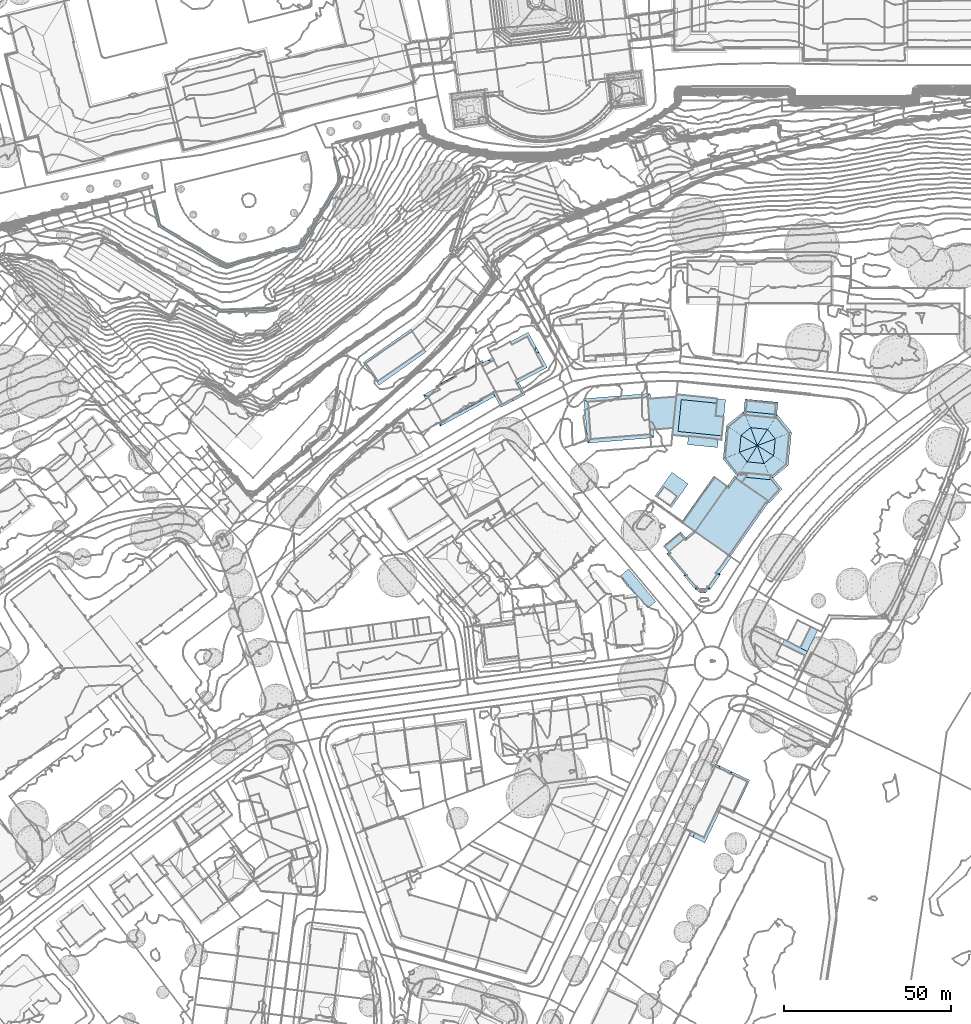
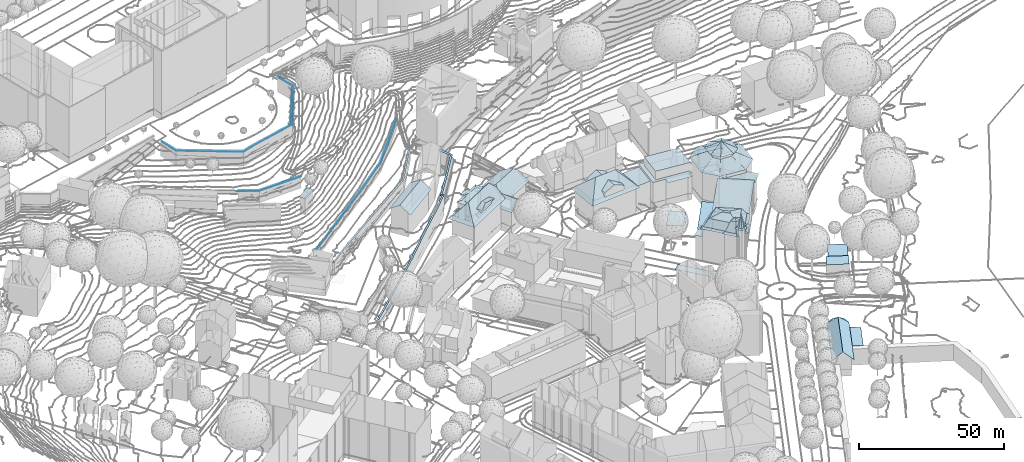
# Not in any storey, part 75 of 494: 27 roofs.
"""IFC2X3 model written with IfcOpenShell, lengths in metres."""

from ifc_helpers import new_model, si_unit, frame, origin_with_axes, place, context, subcontext, project, faceted_brep, element, save


model = new_model("IFC2X3")

# Units and contexts
model_context = context("Model", 3, precision=1e-05, world=origin_with_axes())
body_context = subcontext(model_context, "Body", "Model", "MODEL_VIEW")
ifc_project = project(units=[si_unit("AREAUNIT", "SQUARE_METRE"), si_unit("LENGTHUNIT", "METRE")], contexts=[model_context])

# Roofs
roof_1_placement = place(None, frame((211.8297320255, 101.9383160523, 526.7541), z_axis=(0.0, 0.0, 1.0), x_axis=(1.0, 0.0, 0.0)))
element("IfcRoof", 1, at=roof_1_placement, Name="Roof 68", ShapeType="NOTDEFINED", context=body_context, shape_type="Brep", body=[
    faceted_brep([(226.0840000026, 192.5819999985, 5.6565), (243.0140000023, 193.7958999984, 5.4645), (226.2320000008, 193.1942999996, 5.6565), (219.9750000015, 196.6953000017, 5.6565), (219.6790000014, 196.1660000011, 5.6565), (243.0360000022, 193.1904000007, 5.4645)], [[[0, 1, 2]], [[3, 4, 2]], [[0, 2, 4]], [[1, 0, 5]]]),
])
roof_2_placement = place(None, frame((211.8297320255, 101.9383160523, 526.7541), z_axis=(0.0, 0.0, 1.0), x_axis=(1.0, 0.0, 0.0)))
element("IfcRoof", 2, at=roof_2_placement, Name="Roof 70", ShapeType="NOTDEFINED", context=body_context, shape_type="Brep", body=[
    faceted_brep([(238.7470000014, 162.8436999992, -10.893), (246.1209999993, 169.2197000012, -10.9639), (238.8200000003, 163.7226000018, -10.893), (237.9189999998, 164.6748000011, -10.8929), (237.8509999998, 164.6094000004, -10.8929), (238.6140000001, 163.6044999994, -10.893), (238.2699999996, 163.3467000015, -10.893), (246.507000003, 168.6854999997, -10.9639), (261.8630000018, 179.3418000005, -11.2489), (261.4940000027, 179.8867000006, -11.2489), (276.4550000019, 188.9882999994, -11.3909), (276.0890000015, 189.5351000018, -11.3909), (284.3350000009, 195.1387000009, -11.3909), (284.7970000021, 194.6561999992, -11.3909), (295.9990000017, 209.7382999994, -10.9639), (295.4700000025, 210.1308000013, -10.9639)], [[[0, 1, 2]], [[3, 4, 2]], [[5, 0, 2]], [[0, 5, 6]], [[5, 2, 4]], [[1, 0, 7]], [[8, 9, 1]], [[1, 7, 8]], [[10, 11, 8]], [[9, 8, 11]], [[11, 10, 12]], [[13, 12, 10]], [[13, 14, 12]], [[12, 14, 15]]]),
])
roof_3_placement = place(None, frame((211.8297320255, 101.9383160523, 526.7541), z_axis=(0.0, 0.0, 1.0), x_axis=(1.0, 0.0, 0.0)))
element("IfcRoof", 3, at=roof_3_placement, Name="Roof 71", ShapeType="NOTDEFINED", context=body_context, shape_type="Brep", body=[
    faceted_brep([(299.9330000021, 191.4316000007, -13.8457), (292.7030000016, 183.5439000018, -14.0297), (293.6009999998, 183.6112999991, -14.0297), (299.4210000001, 191.8407999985, -13.8457), (287.8159999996, 177.9228000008, -14.2137), (294.1209999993, 183.1347999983, -14.0297), (293.1660000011, 183.120099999, -14.0297), (277.0140000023, 168.0282999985, -14.7666), (277.4560000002, 167.5439000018, -14.7666), (288.2660000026, 177.4453000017, -14.2137), (266.8460000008, 157.8671999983, -16.1475), (266.4130000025, 158.3603000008, -16.1475), (254.8990000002, 147.7490000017, -17.8053), (240.4620000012, 136.3828000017, -19.0232), (240.8580000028, 135.8594000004, -19.0262), (254.4750000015, 148.25, -17.8053), (304.5190000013, 205.878899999, -12.7038), (307.4979999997, 202.1981999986, -13.5707), (308.4230000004, 202.2080000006, -13.5687), (305.4220000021, 206.5194999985, -12.6478)], [[[0, 1, 2]], [[1, 0, 3]], [[4, 5, 6]], [[1, 6, 2]], [[5, 2, 6]], [[7, 8, 4]], [[9, 4, 8]], [[7, 10, 8]], [[5, 4, 9]], [[10, 7, 11]], [[11, 12, 10]], [[13, 14, 12]], [[12, 15, 13]], [[12, 11, 15]], [[16, 17, 18]], [[16, 18, 19]], [[18, 3, 0]], [[3, 18, 17]]]),
])
roof_4_placement = place(None, frame((211.8297320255, 101.9383160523, 526.7541), z_axis=(0.0, 0.0, 1.0), x_axis=(1.0, 0.0, 0.0)))
element("IfcRoof", 4, at=roof_4_placement, Name="Roof 76", ShapeType="NOTDEFINED", context=body_context, shape_type="Brep", body=[
    faceted_brep([(235.7670000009, 169.8007999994, -8.7491), (264.8280000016, 191.9404000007, -8.3042), (235.6860000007, 170.3574000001, -8.7491), (234.8790000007, 170.6504000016, -8.7491), (234.7090000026, 170.1854999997, -8.7491), (265.126000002, 191.5458999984, -8.3042), (280.6090000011, 204.1053999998, -8.3042), (280.9480000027, 203.7412, -8.3042), (298.3029999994, 223.1532999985, -8.0072), (297.9340000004, 223.4833999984, -8.0072)], [[[0, 1, 2]], [[3, 4, 2]], [[0, 2, 4]], [[0, 5, 1]], [[6, 7, 8]], [[8, 9, 6]], [[1, 5, 6]], [[7, 6, 5]]]),
])
roof_5_placement = place(None, frame((211.8297320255, 101.9383160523, 526.7541), z_axis=(0.0, 0.0, 1.0), x_axis=(1.0, 0.0, 0.0)))
element("IfcRoof", 5, at=roof_5_placement, Name="Roof 77", ShapeType="NOTDEFINED", context=body_context, shape_type="Brep", body=[
    faceted_brep([(207.700000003, 218.0762000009, 13.5628), (208.1950000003, 218.4345999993, 13.5628), (205.9340000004, 225.5936999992, 13.5628), (227.620000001, 206.4824000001, 13.5628), (227.5439999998, 205.8671999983, 13.5628), (231.375, 207.0731999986, 13.5628), (231.2230000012, 207.6162, 13.5628), (206.4830000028, 225.7226000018, 13.5628), (238.7939999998, 209.4706999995, 13.5628), (238.9260000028, 208.9228000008, 13.5628), (246.5879999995, 210.7558000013, 13.5628), (246.4610000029, 211.3057000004, 13.5628), (249.9810000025, 212.0956999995, 13.5628), (255.6390000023, 220.4023000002, 13.5628), (255.1559999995, 220.6933000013, 13.5628), (250.3399999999, 211.5986000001, 13.5628), (260.5860000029, 238.8203000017, 13.5628), (260.0400000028, 238.6777000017, 13.5628), (261.8560000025, 231.7558000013, 13.5628), (262.4620000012, 231.6669999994, 13.5628)], [[[0, 1, 2]], [[1, 0, 3]], [[3, 4, 5]], [[4, 3, 0]], [[6, 3, 5]], [[2, 1, 7]], [[5, 8, 6]], [[8, 5, 9]], [[8, 9, 10]], [[11, 10, 12]], [[10, 11, 8]], [[13, 14, 12]], [[15, 12, 10]], [[13, 12, 15]], [[16, 17, 18]], [[18, 13, 19]], [[18, 19, 16]], [[14, 13, 18]]]),
])
roof_6_placement = place(None, frame((554.542732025, 209.2947160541, 500.1665), z_axis=(0.0, 0.0, 1.0), x_axis=(1.0, 0.0, 0.0)))
element("IfcRoof", 6, at=roof_6_placement, Name="Roof 0", ShapeType="NOTDEFINED", context=body_context, shape_type="Brep", body=[
    faceted_brep([(5.3850000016, 8.4013999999, 5.3715), (2.9880000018, 6.4062999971, 5.3715), (13.4910000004, -1.3437000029, 5.3714), (11.0950000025, -3.3388000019, 5.3714)], [[[0, 1, 2]], [[3, 2, 1]]]),
])
roof_7_placement = place(None, frame((450.1807320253, 287.7430160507, 522.8345), z_axis=(0.0, 0.0, 1.0), x_axis=(1.0, 0.0, 0.0)))
element("IfcRoof", 7, at=roof_7_placement, Name="Roof 0", ShapeType="NOTDEFINED", context=body_context, shape_type="Brep", body=[
    faceted_brep([(-0.3389999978, 0.1015000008, 6.9983), (1.0420000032, -2.111399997, 6.9983), (6.3420000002, 1.3408000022, 6.9983), (4.8320000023, 3.6279000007, 6.9983)], [[[0, 1, 2]], [[2, 3, 0]]]),
])
roof_8_placement = place(None, frame((547.8737320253, 267.5604160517, 499.9486), z_axis=(0.0, 0.0, 1.0), x_axis=(1.0, 0.0, 0.0)))
element("IfcRoof", 8, at=roof_8_placement, Name="Roof 0", ShapeType="NOTDEFINED", context=body_context, shape_type="Brep", body=[
    faceted_brep([(18.4840000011, 2.6181000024, 11.4089), (12.7660000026, 1.0223999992, 12.4288), (17.5899999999, 1.4081999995, 12.4408), (4.6460000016, 0.3720000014, 12.4078), (12.8570000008, -0.0762000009, 13.4337), (12.875, -0.2958999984, 13.6337), (13.2240000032, -4.5040000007, 17.4843), (9.018000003, -3.0713, 15.8684), (-1.3029999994, 0.9794000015, 11.4089), (0.0219999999, -0.2939999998, 12.6648), (4.7390000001, -0.7490999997, 13.4337), (4.757000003, -0.9668000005, 13.6337), (5.1050000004, -5.1757999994, 17.4843), (0.8170000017, -10.9189999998, 12.5778), (-0.2049999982, -12.2872000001, 11.4089), (5.6410000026, -11.8027999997, 11.4089), (5.564000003, -10.7168000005, 12.4038), (7.7330000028, -11.629900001, 11.4089), (5.4130000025, -8.8867999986, 14.0816), (5.4310000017, -9.1044999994, 13.8816), (9.3100000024, -6.6015999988, 15.8684), (13.6840000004, -10.0665000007, 12.3838), (19.5830000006, -10.6484999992, 11.4089), (18.575000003, -9.6748999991, 12.3718), (13.5480000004, -8.4327000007, 13.8816), (13.5300000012, -8.2148999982, 14.0816), (13.6840000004, -10.0665000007, 14.0816), (9.6240000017, -10.3916999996, 15.8684), (5.564000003, -10.7168000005, 14.0816), (8.7060000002, 0.6972000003, 15.8685), (12.7660000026, 1.0223999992, 13.6337), (4.6460000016, 0.3720000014, 13.6337)], [[[0, 1, 2]], [[1, 0, 3]], [[2, 1, 4]], [[2, 5, 6]], [[5, 2, 4]], [[6, 5, 7]], [[3, 8, 9]], [[8, 3, 0]], [[3, 9, 10]], [[7, 11, 12]], [[9, 11, 10]], [[11, 9, 12]], [[7, 12, 6]], [[13, 14, 15]], [[16, 15, 17]], [[13, 15, 16]], [[12, 13, 18]], [[19, 18, 13]], [[13, 16, 19]], [[12, 18, 20]], [[17, 21, 16]], [[21, 17, 22]], [[22, 23, 21]], [[21, 23, 24]], [[20, 25, 6]], [[23, 25, 24]], [[25, 23, 6]], [[20, 6, 12]], [[26, 25, 20]], [[20, 27, 26]], [[27, 20, 18]], [[18, 28, 27]], [[29, 7, 30]], [[5, 30, 7]], [[31, 11, 7]], [[7, 29, 31]], [[23, 22, 0]], [[23, 2, 6]], [[2, 23, 0]], [[9, 8, 13]], [[9, 13, 12]], [[13, 8, 14]]]),
])
roof_9_placement = place(None, frame((481.4457320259, 279.2078160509, 509.1578), z_axis=(0.0, 0.0, 1.0), x_axis=(1.0, 0.0, 0.0)))
element("IfcRoof", 9, at=roof_9_placement, Name="Roof 0", ShapeType="NOTDEFINED", context=body_context, shape_type="Brep", body=[
    faceted_brep([(17.8780000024, 3.2656000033, 9.819), (15.6600000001, 6.7061000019, 12.6728), (1.4959999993, -3.2811999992, 12.6728), (3.8530000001, -6.6229999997, 9.819), (13.3969999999, 10.2158000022, 9.957), (-0.9079999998, 0.1289000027, 9.957)], [[[0, 1, 2]], [[2, 3, 0]], [[1, 4, 5]], [[5, 2, 1]]]),
])
roof_10_placement = place(None, frame((499.9197320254, 269.244916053, 502.2044), z_axis=(0.0, 0.0, 1.0), x_axis=(1.0, 0.0, 0.0)))
element("IfcRoof", 10, at=roof_10_placement, Name="Roof 0", ShapeType="NOTDEFINED", context=body_context, shape_type="Brep", body=[
    faceted_brep([(0.0260000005, -0.0469000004, 13.4137), (0.4750000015, -0.2010999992, 13.6747), (4.7050000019, 2.3583999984, 13.5117), (-1.4169999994, 0.4472999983, 12.5738), (3.3520000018, 2.5077999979, 12.9308), (2.5230000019, 2.5995999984, 12.5738), (4.8090000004, 2.1669999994, 13.6747), (2.2470000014, 3.1044999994, 12.5738), (3.2369999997, 2.9638999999, 12.9908), (4.4710000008, 2.7870999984, 13.5117), (4.0800000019, -7.3993999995, 13.4397), (21.0280000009, 2.2206999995, 13.6747), (4.182, -6.9853000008, 13.6747), (21.7360000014, 0.9257999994, 12.5738), (3.7060000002, -8.9266999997, 12.5738), (11.1680000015, -3.0146000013, 15.8995), (8.9150000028, -5.1006000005, 15.5725), (13.2960000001, -1.8515000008, 15.8995), (12.075000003, -2.1737999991, 16.0315), (16.3310000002, -1.0469000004, 15.5725), (15.2600000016, 0.9140999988, 15.5725), (11.3200000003, -0.7928999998, 16.0315), (7.8430000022, -3.1396000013, 15.5725), (4.1110000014, 3.4433999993, 12.9888), (8.4600000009, 5.8359999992, 12.9808), (8.1710000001, 6.3418000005, 12.5738), (10.8540000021, 7.808600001, 12.5738), (11.1229999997, 7.3193999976, 12.8728), (14.7790000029, 9.2998000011, 12.8818), (10.8500000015, 7.8066999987, 12.5738), (16.5460000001, 8.5821000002, 13.6747), (17.3210000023, 9.004900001, 13.6747), (16.3370000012, 10.8046999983, 12.5738), (15.4880000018, 8.0029999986, 13.6747), (12.2220000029, 8.5557000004, 12.5239), (11.1090000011, 7.3447000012, 15.6445), (14.6449999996, 9.2276000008, 15.6585), (11.3450000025, 7.7441999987, 15.5725), (13.9270000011, 7.7822000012, 15.9395), (10.1480000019, 5.7168000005, 15.9395), (14.8630000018, 9.6669999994, 15.5725), (10.9030000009, 8.5527999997, 15.5725), (7.9910000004, 5.9111999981, 15.5725), (3.7460000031, 3.5907999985, 15.5725), (4.2719999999, 3.5331999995, 15.6645), (8.4400000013, 5.871100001, 15.6485), (5.8370000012, 3.3603999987, 15.9395), (8.0720000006, 6.5175999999, 15.6465), (7.5490000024, 6.7197000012, 15.5725), (8.1040000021, 7.4540999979, 15.5725), (7.8949999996, 7.1777999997, 15.5725), (7.7820000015, 7.0273999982, 15.5725), (8.9040000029, 8.1327999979, 15.5725), (10.4600000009, 8.5223000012, 15.5724), (10.3330000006, 8.5137000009, 15.5725), (9.8920000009, 8.4844000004, 15.5725), (6.9700000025, 1.2881000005, 15.9395), (15.0600000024, 5.7089999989, 15.9395), (16.4330000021, 6.7929999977, 15.5725), (5.3170000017, 0.7177999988, 15.5725), (18.7440000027, 4.3603999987, 17.1594), (20.0670000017, 3.9804999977, 16.0245), (17.8159999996, 6.1415999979, 17.1194), (17.3480000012, 4.7608000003, 18.3552), (18.2259999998, 7.3486999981, 16.0385), (15.313000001, -0.7479999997, 13.8337), (9.2140000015, -4.0820000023, 13.8317), (5.3530000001, -1.7939000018, 18.3552), (7.9250000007, -3.2890000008, 15.3725), (8.5500000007, -2.8672000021, 15.4545), (15.3420000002, 0.7637000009, 15.3725), (14.6510000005, 0.4648999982, 15.4525), (5.2400000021, 0.8574000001, 15.3725), (5.4800000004, 0.9404999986, 15.4255), (16.3570000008, 6.932599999, 15.3725), (16.1579999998, 6.7753999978, 15.4255)], [[[0, 1, 2]], [[3, 0, 4]], [[2, 4, 0]], [[5, 3, 4]], [[1, 6, 2]], [[7, 5, 8]], [[8, 5, 4]], [[4, 2, 9]], [[4, 9, 8]], [[10, 11, 12]], [[13, 10, 14]], [[13, 11, 10]], [[0, 10, 1]], [[14, 0, 3]], [[10, 12, 1]], [[14, 10, 0]], [[15, 16, 17]], [[17, 18, 15]], [[19, 17, 16]], [[20, 17, 19]], [[20, 18, 17]], [[18, 20, 21]], [[18, 21, 15]], [[15, 22, 16]], [[22, 15, 21]], [[23, 24, 25]], [[23, 7, 8]], [[7, 23, 25]], [[23, 8, 9]], [[26, 27, 28]], [[26, 29, 27]], [[30, 31, 28]], [[28, 32, 26]], [[32, 28, 31]], [[30, 28, 33]], [[29, 26, 34]], [[35, 36, 37]], [[38, 35, 39]], [[36, 40, 37]], [[36, 35, 38]], [[35, 37, 41]], [[39, 35, 41]], [[42, 43, 44]], [[45, 44, 46]], [[44, 45, 42]], [[45, 46, 39]], [[45, 39, 47]], [[45, 48, 42]], [[48, 45, 47]], [[39, 49, 47]], [[47, 49, 50]], [[50, 51, 47]], [[51, 48, 47]], [[39, 52, 49]], [[53, 54, 41]], [[39, 41, 54]], [[54, 55, 39]], [[52, 39, 55]], [[46, 56, 39]], [[39, 57, 38]], [[57, 39, 56]], [[57, 58, 36]], [[57, 36, 38]], [[36, 58, 40]], [[44, 43, 59]], [[46, 59, 56]], [[59, 46, 44]], [[60, 61, 62]], [[60, 62, 63]], [[62, 61, 64]], [[11, 65, 66]], [[66, 12, 11]], [[21, 67, 22]], [[67, 12, 22]], [[22, 12, 68]], [[66, 69, 68]], [[68, 12, 66]], [[67, 21, 63]], [[70, 71, 11]], [[11, 71, 65]], [[60, 21, 20]], [[61, 60, 20]], [[61, 20, 70]], [[21, 60, 63]], [[11, 61, 70]], [[1, 12, 67]], [[67, 59, 1]], [[59, 67, 56]], [[62, 57, 56]], [[56, 67, 63]], [[1, 72, 6]], [[72, 1, 59]], [[73, 6, 72]], [[62, 64, 57]], [[64, 58, 57]], [[58, 64, 74]], [[33, 75, 74]], [[74, 31, 30]], [[31, 74, 64]], [[74, 30, 33]], [[62, 56, 63]]]),
])
roof_11_placement = place(None, frame((516.2887320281, 278.1668160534, 502.5014), z_axis=(0.0, 0.0, 1.0), x_axis=(1.0, 0.0, 0.0)))
element("IfcRoof", 11, at=roof_11_placement, Name="Roof 0", ShapeType="NOTDEFINED", context=body_context, shape_type="Brep", body=[
    faceted_brep([(17.0249999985, 4.0145999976, 12.9977), (15.9479999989, 6.0155999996, 12.9317), (15.7559999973, 4.5341999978, 13.6317), (4.4599999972, -0.0439000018, 12.9517), (5.4629999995, -2.1631000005, 12.9347), (5.9589999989, -0.6016000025, 13.6317), (19.3359999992, -0.2763999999, 10.051), (10.2819999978, -5.0225000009, 10.051), (6.4469999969, -4.2402000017, 11.5469), (9.3259999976, -5.5234000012, 10.051), (0.1669999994, 0.0907999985, 10.039), (0.0, 0.0, 9.931), (1.5249999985, -2.9238000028, 9.947), (1.4869999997, 1.9208999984, 11.1789), (3.9560000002, -0.7422000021, 11.7399), (4.1219999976, -0.6523000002, 11.8468), (2.7630000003, 1.5126999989, 11.7189), (4.493999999, -1.3691000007, 11.8498), (4.9689999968, -1.1201000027, 12.1548), (4.4599999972, -0.0439000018, 12.1748), (-0.3080000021, 1.0048999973, 10.035), (3.9499999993, 0.8710999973, 12.1528), (3.7729999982, 1.1884999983, 12.1448), (4.3559999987, -1.4414000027, 11.7618), (1.5229999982, -2.9248000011, 9.3941), (3.943, -7.5742000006, 9.3831), (3.3289999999, -1.9794999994, 10.9039), (3.2119999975, -7.9736000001, 8.7661), (5.4329999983, -12.2118999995, 8.7661), (4.1030000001, -0.6621000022, 11.8638), (9.1389999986, -10.2705000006, 11.8638), (4.9689999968, -1.1201000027, 11.4399), (4.6270000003, -1.2988000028, 11.7359), (6.311999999, -3.9550999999, 11.5369), (12.7239999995, -8.3896000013, 8.7661), (9.557, -5.4023000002, 9.851), (10.3880000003, -3.9326000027, 8.7661), (9.8539999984, -4.2168000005, 9.2291), (10.2819999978, -5.0225000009, 9.2251), (2.9499999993, 2.6669999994, 11.1789), (2.0419999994, 4.2949000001, 10.114), (2.1789999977, 4.365199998, 10.115), (13.6359999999, 10.2118999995, 10.195), (3.7859999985, 5.1845999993, 10.126), (11.8279999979, -4.2109000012, 10.001), (19.3359999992, -0.2763999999, 9.851)], [[[0, 1, 2]], [[3, 4, 5]], [[0, 2, 6]], [[7, 6, 2]], [[2, 5, 7]], [[5, 4, 8]], [[9, 7, 8]], [[8, 7, 5]], [[10, 11, 12]], [[12, 13, 10]], [[13, 12, 14]], [[14, 15, 16]], [[17, 18, 15]], [[15, 18, 19]], [[10, 13, 20]], [[21, 16, 15]], [[22, 16, 21]], [[16, 13, 14]], [[21, 15, 19]], [[14, 12, 23]], [[24, 25, 26]], [[25, 27, 28]], [[29, 14, 23]], [[30, 23, 26]], [[29, 23, 30]], [[26, 25, 30]], [[30, 25, 28]], [[15, 29, 17]], [[17, 29, 30]], [[31, 32, 33]], [[33, 32, 17]], [[17, 8, 33]], [[17, 30, 8]], [[34, 35, 9]], [[9, 8, 30]], [[34, 9, 30]], [[36, 37, 38]], [[38, 34, 36]], [[34, 38, 35]], [[22, 3, 1]], [[39, 16, 1]], [[39, 13, 16]], [[40, 39, 41]], [[16, 22, 1]], [[5, 2, 1]], [[42, 39, 1]], [[43, 41, 39]], [[39, 42, 43]], [[3, 5, 1]], [[7, 44, 45]]]),
])
roof_12_placement = place(None, frame((576.9417320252, 139.999816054, 499.5324), z_axis=(0.0, 0.0, 1.0), x_axis=(1.0, 0.0, 0.0)))
element("IfcRoof", 12, at=roof_12_placement, Name="Roof 0", ShapeType="NOTDEFINED", context=body_context, shape_type="Brep", body=[
    faceted_brep([(12.7589999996, 16.7655999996, 10.0681), (11.2259999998, 16.5067999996, 11.095), (13.5360000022, 16.3935999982, 9.1651), (15.4900000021, 16.2987999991, 7.5313), (14.0450000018, 16.9843999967, 9.2061), (2.762000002, -1.3232000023, 11.0949), (5.7690000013, -4.1807000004, 7.5313), (9.7280000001, 18.2187999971, 9.1312), (-1.2149999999, -0.8662, 7.5313), (8.507000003, 19.6142999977, 7.5313), (2.2070000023, -2.4912, 11.0949), (10.4890000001, 17.8534999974, 10.0571), (9.8850000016, 18.9589999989, 9.2061)], [[[0, 1, 2]], [[3, 4, 0]], [[3, 0, 2]], [[5, 2, 1]], [[6, 2, 5]], [[6, 3, 2]], [[7, 5, 1]], [[8, 7, 9]], [[5, 8, 10]], [[8, 5, 7]], [[6, 5, 10]], [[0, 4, 11]], [[0, 11, 1]], [[11, 4, 12]], [[12, 9, 11]], [[7, 1, 11]], [[7, 11, 9]]]),
])
roof_13_placement = place(None, frame((586.985732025, 146.8299160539, 499.5454), z_axis=(0.0, 0.0, 1.0), x_axis=(1.0, 0.0, 0.0)))
element("IfcRoof", 13, at=roof_13_placement, Name="Roof 0", ShapeType="NOTDEFINED", context=body_context, shape_type="Brep", body=[
    faceted_brep([(3.8350000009, 10.235299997, 5.6745), (3.512000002, 9.5546999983, 5.6745), (4.3710000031, 9.1425999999, 5.5845), (9.1340000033, 7.7206999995, 5.1235), (-0.049999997, -0.1074000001, 5.5875), (4.4140000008, -2.2256000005, 5.1235)], [[[0, 1, 2]], [[0, 2, 3]], [[3, 2, 4]], [[5, 3, 4]]]),
])
roof_14_placement = place(None, frame((604.1217320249, 191.883616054, 499.7615), z_axis=(0.0, 0.0, 1.0), x_axis=(1.0, 0.0, 0.0)))
element("IfcRoof", 14, at=roof_14_placement, Name="Roof 0", ShapeType="NOTDEFINED", context=body_context, shape_type="Brep", body=[
    faceted_brep([(0.0, 0.0, 5.7324), (6.9760000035, -3.4414000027, 5.7325), (8.5789999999, -0.1904000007, 5.7325), (1.5960000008, 3.253899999, 5.7314), (9.2370000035, 1.1444999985, 5.7325), (2.2520000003, 4.5907999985, 5.7315)], [[[0, 1, 2]], [[3, 2, 4]], [[2, 3, 0]], [[3, 4, 5]]]),
])
roof_15_placement = place(None, frame((607.3027320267, 196.0164160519, 499.6766), z_axis=(0.0, 0.0, 1.0), x_axis=(1.0, 0.0, 0.0)))
element("IfcRoof", 15, at=roof_15_placement, Name="Roof 0", ShapeType="NOTDEFINED", context=body_context, shape_type="Brep", body=[
    faceted_brep([(3.9450000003, -1.9463, 5.8174), (6.0560000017, -2.9882999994, 5.8174), (7.0560000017, 4.3603999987, 5.8164), (-0.1590000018, 0.0780999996, 5.8164), (0.0, 0.0, 5.8164), (2.9560000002, 6.3672000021, 5.8164), (3.1039999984, 6.2949000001, 5.8164), (9.1689999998, 3.3251999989, 5.8164)], [[[0, 1, 2]], [[3, 4, 5]], [[0, 6, 4]], [[6, 0, 2]], [[5, 4, 6]], [[2, 1, 7]]]),
])
roof_16_placement = place(None, frame((573.0317320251, 257.6658160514, 499.7226), z_axis=(0.0, 0.0, 1.0), x_axis=(1.0, 0.0, 0.0)))
element("IfcRoof", 16, at=roof_16_placement, Name="Roof 0", ShapeType="NOTDEFINED", context=body_context, shape_type="Brep", body=[
    faceted_brep([(15.3509999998, 5.4209000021, 11.3249), (13.3090000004, 9.5439999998, 11.3249), (12.9260000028, 5.6963, 11.3249), (15.8730000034, 10.6143000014, 11.3249), (4.7360000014, -0.4853000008, 11.3249), (13.4200000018, -3.6884999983, 11.3249), (13.7030000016, -1.4032999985, 11.3249), (14.6550000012, -1.5, 11.3249), (14.7850000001, -0.2137999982, 11.3249), (2.6390000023, 10.6172000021, 11.3249), (1.2609999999, 12.1338, 11.3249), (0.0, 0.0, 11.3249), (4.449000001, -2.816399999, 11.3249), (1.6830000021, 1.1026000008, 11.3249)], [[[0, 1, 2]], [[1, 0, 3]], [[4, 5, 6]], [[7, 8, 6]], [[8, 4, 6]], [[1, 3, 9]], [[9, 10, 11]], [[10, 9, 3]], [[12, 5, 4]], [[4, 13, 11]], [[11, 13, 9]], [[8, 13, 4]]]),
])
roof_17_placement = place(None, frame((573.0317320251, 257.6658160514, 499.7226), z_axis=(0.0, 0.0, 1.0), x_axis=(1.0, 0.0, 0.0)))
element("IfcRoof", 17, at=roof_17_placement, Name="Roof 1", ShapeType="NOTDEFINED", context=body_context, shape_type="Brep", body=[
    faceted_brep([(13.3090000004, 9.5439999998, 14.7665), (2.6390000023, 10.6172000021, 14.7666), (14.7850000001, -0.2137999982, 14.7665), (1.6830000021, 1.1026000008, 14.7665), (15.7410000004, 9.2998000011, 14.7665)], [[[0, 1, 2]], [[2, 1, 3]], [[2, 4, 0]]]),
])
roof_18_placement = place(None, frame((565.6917320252, 268.4637160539, 499.7686), z_axis=(0.0, 0.0, 1.0), x_axis=(1.0, 0.0, 0.0)))
element("IfcRoof", 18, at=roof_18_placement, Name="Roof 0", ShapeType="NOTDEFINED", context=body_context, shape_type="Brep", body=[
    faceted_brep([(0.6770000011, -9.25, 10.59), (7.557, -8.7110000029, 10.5899), (0.5850000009, -8.0938000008, 10.59), (0.6680000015, -9.251000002, 10.59), (0.3520000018, -4.871100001, 10.589), (8.5320000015, 0.672799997, 10.587), (0.0, 0.0, 10.587), (2.3910000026, -9.1161000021, 10.5399), (0.3350000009, -4.625, 10.412), (0.4570000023, -6.2490000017, 10.389), (0.501000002, -6.9317000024, 10.438), (0.2540000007, -3.4688000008, 10.388), (0.6770000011, -9.25, 10.39)], [[[0, 1, 2]], [[3, 0, 2]], [[4, 2, 1]], [[4, 1, 5]], [[6, 4, 5]], [[7, 0, 3]], [[8, 9, 10]], [[9, 8, 11]], [[9, 12, 10]]]),
])
roof_19_placement = place(None, frame((568.5307320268, 239.2557160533, 500.0015), z_axis=(0.0, 0.0, 1.0), x_axis=(1.0, 0.0, 0.0)))
element("IfcRoof", 19, at=roof_19_placement, Name="Roof 0", ShapeType="NOTDEFINED", context=body_context, shape_type="Brep", body=[
    faceted_brep([(9.1959999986, 3.8515000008, 5.9304), (4.3200000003, 7.311499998, 5.9305), (4.1499999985, -3.2608000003, 5.9304), (-0.7259999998, 0.1981999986, 5.9305)], [[[0, 1, 2]], [[3, 2, 1]]]),
])
roof_20_placement = place(None, frame((576.0807320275, 231.3953160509, 499.9275), z_axis=(0.0, 0.0, 1.0), x_axis=(1.0, 0.0, 0.0)))
element("IfcRoof", 20, at=roof_20_placement, Name="Roof 0", ShapeType="NOTDEFINED", context=body_context, shape_type="Brep", body=[
    faceted_brep([(3.7589999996, -2.7412, 6.2374), (3.8029999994, -2.6747999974, 6.2374), (3.7049999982, -2.6054999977, 6.2374), (-0.432, 0.2090000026, 6.2374), (13.1719999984, 10.7763999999, 6.2374), (13.7670000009, 10.3545000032, 6.2374), (14.0469999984, 10.7490000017, 6.2374), (9.3279999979, 14.0713, 6.2374)], [[[0, 1, 2]], [[3, 2, 4]], [[2, 3, 0]], [[5, 6, 4]], [[4, 7, 3]], [[7, 4, 6]]]),
])
roof_21_placement = place(None, frame((576.0807320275, 231.3953160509, 499.9275), z_axis=(0.0, 0.0, 1.0), x_axis=(1.0, 0.0, 0.0)))
element("IfcRoof", 21, at=roof_21_placement, Name="Roof 1", ShapeType="NOTDEFINED", context=body_context, shape_type="Brep", body=[
    faceted_brep([(3.7609999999, -2.7391999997, 13.8457), (13.8429999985, -9.7655999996, 13.8456), (15.5979999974, 14.2050999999, 13.8457), (3.2749999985, -3.2138999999, 13.8457), (3.6449999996, -2.9179999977, 13.8457), (3.2879999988, -3.2225999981, 13.8457), (26.1059999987, 6.7715000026, 13.8457), (13.7839999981, -10.6473999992, 13.8456), (13.6840000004, -9.990199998, 13.8456), (13.2850000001, -10.2949000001, 13.8456), (13.5610000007, -9.9032999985, 13.8457)], [[[0, 1, 2]], [[0, 2, 3]], [[4, 0, 5]], [[6, 1, 7]], [[6, 2, 1]], [[7, 1, 8]], [[5, 0, 3]], [[9, 8, 10]], [[7, 8, 9]]]),
])
roof_22_placement = place(None, frame((588.8407320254, 250.8973160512, 499.7896), z_axis=(0.0, 0.0, 1.0), x_axis=(1.0, 0.0, 0.0)))
element("IfcRoof", 22, at=roof_22_placement, Name="Roof 0", ShapeType="NOTDEFINED", context=body_context, shape_type="Brep", body=[
    faceted_brep([(3.1099999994, -6.1767999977, 13.3106), (4.7740000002, -5.182599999, 13.3106), (3.882000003, -5.0859999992, 13.3106), (6.0769999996, -5.8183999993, 13.3106), (6.4990000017, -5.1972999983, 13.3106), (4.8350000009, -4.9814999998, 13.3106), (12.8790000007, -12.995099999, 13.3106), (13.5470000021, -6.5615999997, 13.3106), (12.6689999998, -13.2333999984, 13.3106), (13.132000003, -13.5527999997, 13.3106), (16.9330000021, -9.3632999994, 13.3106), (13.3599999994, -5.9365999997, 13.3106), (13.7360000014, -6.4062999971, 13.3106), (13.8210000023, -5.5605999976, 13.3106)], [[[0, 1, 2]], [[1, 0, 3]], [[4, 5, 3]], [[6, 7, 3]], [[5, 1, 3]], [[8, 9, 6]], [[6, 9, 10]], [[11, 12, 13]], [[12, 10, 13]], [[10, 12, 7]], [[7, 6, 10]], [[3, 0, 6]]]),
])
roof_23_placement = place(None, frame((588.8407320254, 250.8973160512, 499.7896), z_axis=(0.0, 0.0, 1.0), x_axis=(1.0, 0.0, 0.0)))
element("IfcRoof", 23, at=roof_23_placement, Name="Roof 1", ShapeType="NOTDEFINED", context=body_context, shape_type="Brep", body=[
    faceted_brep([(5.4030000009, 12.8808000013, 11.5818), (6.2010000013, 13.826100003, 11.2529), (5.870000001, 17.5810000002, 10.058), (5.7809999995, 13.1894000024, 11.4708), (6.1400000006, 13.1533000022, 11.4708), (15.7300000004, 16.6025000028, 10.058), (15.120000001, 12.2578000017, 11.4718), (15.2780000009, 12.0604999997, 11.5308), (14.8599999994, 12.9668000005, 11.2529), (14.8020000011, 12.2890000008, 11.4718)], [[[0, 1, 2]], [[1, 0, 3]], [[1, 3, 4]], [[2, 1, 5]], [[6, 7, 8]], [[9, 6, 8]], [[8, 7, 5]], [[8, 5, 1]]]),
])
roof_24_placement = place(None, frame((588.8407320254, 250.8973160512, 499.7896), z_axis=(0.0, 0.0, 1.0), x_axis=(1.0, 0.0, 0.0)))
element("IfcRoof", 24, at=roof_24_placement, Name="Roof 2", ShapeType="NOTDEFINED", context=body_context, shape_type="Brep", body=[
    faceted_brep([(6.5160000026, -1.1992999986, 18.8951), (9.5400000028, 3.6650000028, 21.6509), (4.1750000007, 1.6581999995, 18.8951), (4.6750000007, 6.6904000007, 18.8951), (11.5480000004, -1.6992000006, 18.8951), (14.4050000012, 0.6416000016, 18.8951), (14.9050000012, 5.6738000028, 18.8951), (7.5329999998, 9.0302000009, 18.8951), (12.5650000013, 8.5302000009, 18.8951)], [[[0, 1, 2]], [[1, 3, 2]], [[4, 1, 0]], [[1, 4, 5]], [[6, 1, 5]], [[3, 1, 7]], [[1, 8, 7]], [[8, 1, 6]]]),
])
roof_25_placement = place(None, frame((588.8407320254, 250.8973160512, 499.7896), z_axis=(0.0, 0.0, 1.0), x_axis=(1.0, 0.0, 0.0)))
element("IfcRoof", 25, at=roof_25_placement, Name="Roof 3", ShapeType="NOTDEFINED", context=body_context, shape_type="Brep", body=[
    faceted_brep([(19.7670000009, 7.6728000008, 14.4896), (15.4810000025, 12.9043000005, 14.4895), (13.4150000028, 5.9140000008, 17.4063), (12.0540000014, 7.576100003, 17.4063), (13.8690000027, 5.3613000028, 17.4063), (18.7790000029, -2.2743999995, 14.4896), (13.4510000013, 1.1513000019, 17.4063), (13.5470000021, -6.5615999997, 14.4895), (13.1600000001, 0.9131000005, 17.4063), (11.5170000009, -0.432599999, 17.4063), (11.2360000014, -0.6631000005, 17.4063), (3.6000000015, -5.5722999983, 14.4895), (7.0270000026, -0.2441999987, 17.4063), (5.6300000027, 6.1797000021, 17.4063), (5.9480000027, 6.4404000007, 17.4063), (5.5340000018, 13.8925000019, 14.4896), (7.5659999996, 7.7655999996, 17.4063), (7.8450000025, 7.9931000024, 17.4063), (0.3020000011, 9.6064000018, 14.4896), (6.8000000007, 0.0322000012, 17.4063), (5.4539999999, 1.6757000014, 17.4073), (5.2120000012, 1.9706999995, 17.4063), (-0.686999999, -0.3409000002, 14.4895)], [[[0, 1, 2]], [[3, 2, 1]], [[0, 2, 4]], [[5, 0, 4]], [[4, 6, 5]], [[7, 6, 8]], [[9, 10, 7]], [[7, 5, 6]], [[7, 8, 9]], [[11, 7, 12]], [[10, 12, 7]], [[13, 14, 15]], [[16, 15, 14]], [[16, 17, 15]], [[15, 18, 13]], [[17, 3, 15]], [[1, 15, 3]], [[11, 19, 20]], [[12, 19, 11]], [[20, 21, 22]], [[22, 11, 20]], [[18, 22, 21]], [[21, 13, 18]]]),
])
roof_26_placement = place(None, frame((570.7887320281, 224.3660160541, 500.0575), z_axis=(0.0, 0.0, 1.0), x_axis=(1.0, 0.0, 0.0)))
element("IfcRoof", 26, at=roof_26_placement, Name="Roof 0", ShapeType="NOTDEFINED", context=body_context, shape_type="Brep", body=[
    faceted_brep([(4.6539999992, 4.4853999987, 9.877), (5.8310000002, 2.3525999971, 9.877), (6.6339999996, 2.1415999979, 9.877), (-0.439000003, 0.1845999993, 9.877), (6.2729999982, 1.8329999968, 9.877), (1.2609999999, -1.5058000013, 9.877), (1.5579999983, -2.1797000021, 9.877), (1.7139999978, -2.0459000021, 9.877)], [[[0, 1, 2]], [[1, 0, 3]], [[4, 2, 1]], [[5, 3, 6]], [[3, 5, 1]], [[6, 7, 5]]]),
])
roof_27_placement = place(None, frame((570.7887320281, 224.3660160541, 500.0575), z_axis=(0.0, 0.0, 1.0), x_axis=(1.0, 0.0, 0.0)))
element("IfcRoof", 27, at=roof_27_placement, Name="Roof 1", ShapeType="NOTDEFINED", context=body_context, shape_type="Brep", body=[
    faceted_brep([(10.8129999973, -7.3027000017, 17.9722), (12.8279999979, -8.2832000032, 17.1193), (16.487999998, -3.0547000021, 17.1193), (11.5629999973, -4.0019000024, 18.4652), (10.7219999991, -5.2031000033, 18.4652), (9.2179999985, 2.0116999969, 17.1193), (9.4549999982, -2.5332000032, 18.4652), (8.8779999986, -3.0205000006, 18.4652), (8.993999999, 3.9003999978, 14.2746), (8.6939999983, 4.7704999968, 13.7237), (1.7069999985, -2.2529000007, 14.2746), (0.481999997, -2.1640000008, 13.7237), (18.7099999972, -2.8701000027, 14.2746), (19.9210000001, -3.0537, 13.7236), (14.9399999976, -8.254900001, 14.2746), (15.1589999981, -8.4140000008, 14.2746), (16.4089999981, -8.0722000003, 13.7236), (16.6710000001, -8.2617000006, 13.7236), (10.2079999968, -10.0381000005, 18.0082), (11.6099999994, -10.0254000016, 18.0082), (10.8699999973, -8.6152000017, 18.8492), (12.6019999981, -8.6064000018, 18.0082), (12.8839999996, -11.6650000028, 14.2746), (13.5269999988, -12.7539000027, 13.7236), (9.7740000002, -11.6933000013, 14.2746), (9.3759999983, -11.6972000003, 14.2746), (9.7809999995, -12.4931000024, 13.8726), (9.0789999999, -12.7949000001, 13.7236), (10.0789999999, -12.7861000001, 13.7236), (6.7599999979, -8.6015000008, 14.2746), (5.5189999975, -8.5820000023, 13.7237), (8.9409999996, -8.5381000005, 18.0082), (3.8549999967, -2.5185000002, 17.1193), (8.7639999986, -8.3281000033, 17.1193), (5.7669999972, -8.4199000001, 13.7237), (6.9599999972, -8.4707000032, 14.2746), (12.6469999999, -12.4697000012, 13.8706), (12.6399999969, -11.6670000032, 14.2746), (12.356999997, -12.7656000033, 13.7236), (11.6909999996, -13.0244000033, 16.7983), (12.0269999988, -13.8144000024, 16.3094), (13.1490000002, -12.6719000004, 16.3094), (12.3530000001, -12.3506000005, 16.7983), (12.3449999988, -11.4062000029, 16.7983), (13.1349999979, -11.0703000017, 16.3094), (9.2689999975, -11.1045000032, 16.3094), (9.2829999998, -12.7050999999, 16.3094), (10.0649999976, -11.4258000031, 16.7984), (10.0729999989, -12.3701000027, 16.7983), (10.424999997, -13.8281000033, 16.3094), (10.7469999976, -13.0322000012, 16.7983), (12.4509999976, -10.3984000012, 16.3094), (12.0989999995, -10.6553000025, 16.5744), (11.7299999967, -10.5986000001, 16.7094), (11.6710000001, -10.7431000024, 16.7984), (10.6659999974, -10.6084000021, 16.7094), (10.7269999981, -10.7519000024, 16.7984), (9.8519999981, -10.7471000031, 16.4114), (9.7109999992, -10.6533000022, 16.3094), (12.6380000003, -11.3486000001, 14.9965), (9.6469999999, -10.7197000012, 16.1094), (9.811999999, -10.8291000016, 16.2294), (11.2089999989, -11.8887000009, 22.1448), (12.6369999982, -11.2812000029, 15.0695), (12.5279999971, -10.4736000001, 16.1094), (12.4219999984, -11.0703000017, 15.6295), (12.1649999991, -10.7392000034, 16.3834), (9.7709999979, -11.3066000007, 15.1495), (10.3259999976, -10.7412, 16.4174), (12.0700000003, -10.7246000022, 16.4174)], [[[0, 1, 2]], [[0, 3, 4]], [[3, 0, 2]], [[3, 2, 5]], [[5, 6, 3]], [[6, 7, 4]], [[4, 3, 6]], [[8, 9, 10]], [[11, 10, 9]], [[12, 13, 9]], [[9, 8, 12]], [[14, 15, 16]], [[17, 16, 15]], [[13, 12, 16]], [[14, 16, 12]], [[18, 19, 20]], [[21, 20, 19]], [[22, 23, 15]], [[17, 15, 23]], [[24, 25, 26]], [[25, 27, 26]], [[26, 27, 28]], [[29, 30, 27]], [[27, 25, 29]], [[20, 31, 18]], [[7, 32, 0]], [[7, 0, 4]], [[0, 32, 33]], [[6, 5, 7]], [[32, 7, 5]], [[0, 31, 20]], [[21, 0, 20]], [[34, 30, 35]], [[29, 35, 30]], [[10, 11, 34]], [[34, 35, 10]], [[36, 23, 37]], [[36, 38, 23]], [[22, 37, 23]], [[39, 40, 41]], [[41, 42, 39]], [[43, 42, 44]], [[41, 44, 42]], [[45, 46, 47]], [[48, 47, 46]], [[48, 46, 49]], [[49, 50, 48]], [[50, 49, 40]], [[40, 39, 50]], [[44, 51, 43]], [[43, 51, 52]], [[52, 53, 54]], [[52, 54, 43]], [[55, 56, 54]], [[54, 53, 55]], [[56, 55, 47]], [[47, 55, 57]], [[45, 47, 57]], [[45, 57, 58]], [[2, 12, 8]], [[8, 5, 2]], [[5, 8, 32]], [[10, 32, 8]], [[1, 14, 2]], [[12, 2, 14]], [[37, 22, 59]], [[18, 31, 58]], [[58, 57, 18]], [[31, 29, 58]], [[60, 29, 25]], [[25, 61, 60]], [[60, 58, 29]], [[32, 10, 35]], [[35, 33, 32]], [[57, 55, 18]], [[18, 55, 19]], [[19, 53, 52]], [[53, 19, 55]], [[62, 39, 42]], [[42, 43, 62]], [[54, 62, 43]], [[56, 62, 54]], [[47, 62, 56]], [[48, 62, 47]], [[62, 48, 50]], [[50, 39, 62]], [[63, 15, 64]], [[59, 22, 63]], [[22, 15, 63]], [[51, 21, 19]], [[51, 64, 15]], [[51, 19, 52]], [[65, 64, 66]], [[64, 65, 63]], [[51, 15, 21]], [[25, 24, 67]], [[67, 61, 25]], [[67, 68, 61]], [[69, 65, 66]], [[15, 14, 1]], [[1, 0, 21]], [[1, 21, 15]], [[31, 0, 33]], [[33, 35, 29]], [[33, 29, 31]]]),
])

save(model, "model.ifc")
